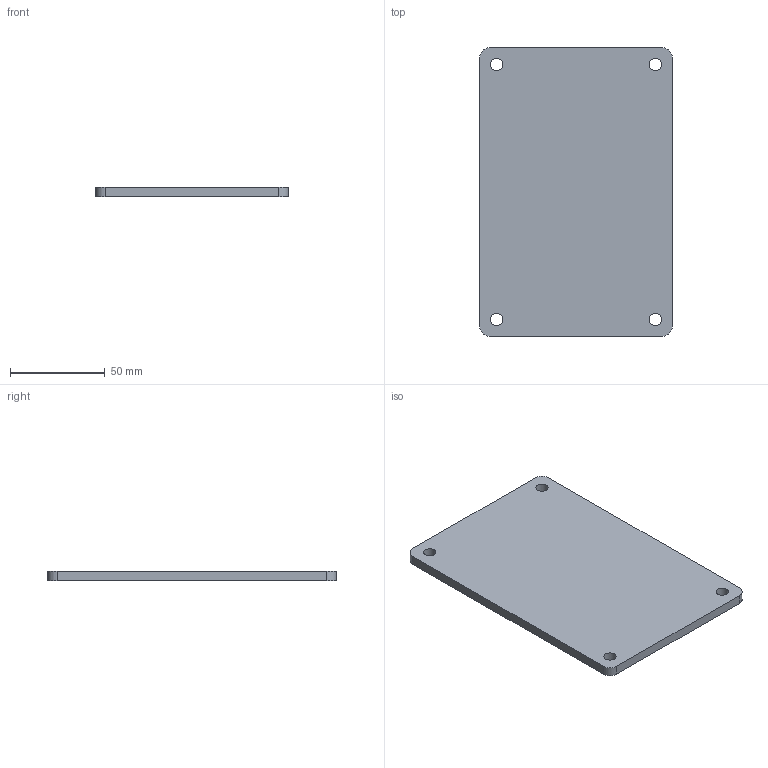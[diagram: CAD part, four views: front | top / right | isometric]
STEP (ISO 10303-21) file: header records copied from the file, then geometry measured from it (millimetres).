
FILE_DESCRIPTION(/* description */ ('STEP AP242 Edition 2','CAx-IF Rec.Pracs.---Representation and Presentation of Product Manufacturing Information (PMI)---4.0---2014-10-13','CAx-IF Rec.Pracs.---3D Tessellated Geometry---0.4---2014-09-14','2;1','CAx-IF Rec.Pracs.---User Defined Attributes---1.5---2016-08-15'),/* implementation_level */ '2;1');
FILE_NAME(/* name */ 'electronics box - Electronics Box Lid',/* time_stamp */ '2026-05-29T17:27:44Z',/* author */ (''),/* organization */ (''),/* preprocessor_version */ 'ST-DEVELOPER v20',/* originating_system */ 'ONSHAPE BY PTC INC, 1.215',/* authorisation */ ' ');
FILE_SCHEMA (('AP242_MANAGED_MODEL_BASED_3D_ENGINEERING_MIM_LF { 1 0 10303 442 3 1 4 }'));
Length unit declared in the file: metre
Products named in the file (1): Electronics Box Lid
Bounding box: 101.6 x 152.4 x 5.08 mm (x, y, z)
Volume: 77865.3 mm3; surface area: 33608.7 mm2
Topology: 1 solids, 1 shells, 14 faces, 40 edges, 28 vertices
Faces by surface type: cylinder 8, plane 6
Full cylindrical faces by diameter (mm): 6.528 x4
Entity records: 454 total; most frequent: DIRECTION 78, CARTESIAN_POINT 71, ORIENTED_EDGE 64, EDGE_CURVE 32, AXIS2_PLACEMENT_3D 31, EDGE_LOOP 26, FACE_BOUND 26, VERTEX_POINT 24
